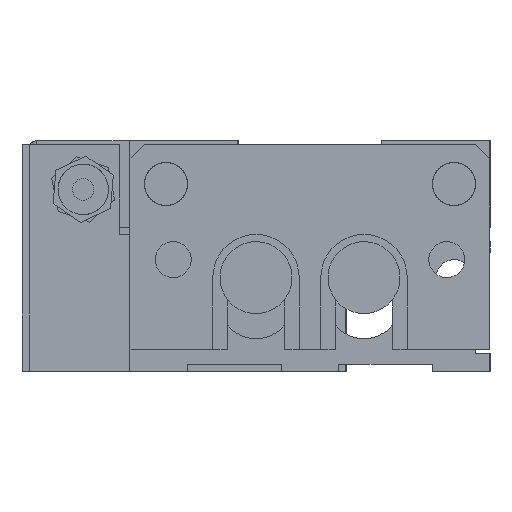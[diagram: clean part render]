
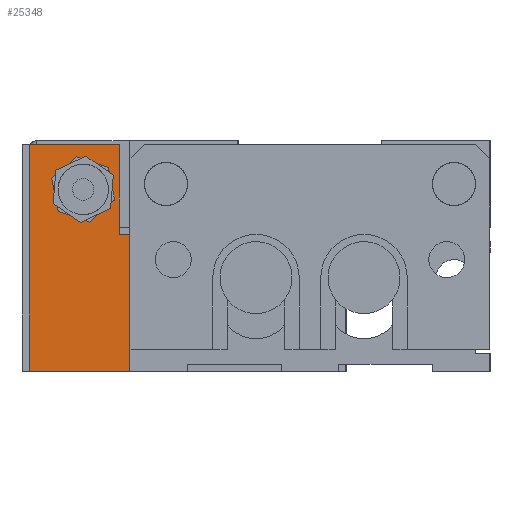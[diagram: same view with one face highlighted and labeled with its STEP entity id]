
A CAD part, left-side view. The second image highlights one B-rep face of the part: STEP entity #25348.
In plain terms, the highlighted planar face has unit normal (-1, 0, 0).
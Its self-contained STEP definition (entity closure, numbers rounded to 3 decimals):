
#2402 = FACE_BOUND ( 'NONE', #25337, .T. ) ;
#2404 = DIRECTION ( 'NONE',  ( 0., 0., 1. ) ) ;
#2405 = VECTOR ( 'NONE', #2404, 1000. ) ;
#2406 = CARTESIAN_POINT ( 'NONE',  ( -4.75, 3.25, 15. ) ) ;
#2413 = LINE ( 'NONE', #2406, #2405 ) ;
#2416 = AXIS2_PLACEMENT_3D ( 'NONE', #2456, #2455, #2454 ) ;
#2419 = FACE_OUTER_BOUND ( 'NONE', #25363, .T. ) ;
#2423 = CARTESIAN_POINT ( 'NONE',  ( -4.75, 3.25, 12.5 ) ) ;
#2435 = AXIS2_PLACEMENT_3D ( 'NONE', #2453, #2498, #2497 ) ;
#2439 = CIRCLE ( 'NONE', #2435, 3.5 ) ;
#2441 = CARTESIAN_POINT ( 'NONE',  ( -4.75, 3.25, 15. ) ) ;
#2453 = CARTESIAN_POINT ( 'NONE',  ( -4.75, 9.5, 7.5 ) ) ;
#2454 = DIRECTION ( 'NONE',  ( 0., 0., -1. ) ) ;
#2455 = DIRECTION ( 'NONE',  ( 1., 0., 0. ) ) ;
#2456 = CARTESIAN_POINT ( 'NONE',  ( -4.75, 15.75, 15. ) ) ;
#2461 = PLANE ( 'NONE',  #2416 ) ;
#2497 = DIRECTION ( 'NONE',  ( 0., 0., 1. ) ) ;
#2498 = DIRECTION ( 'NONE',  ( -1., 0., 0. ) ) ;
#7231 = VERTEX_POINT ( 'NONE', #11880 ) ;
#7271 = EDGE_CURVE ( 'NONE', #7282, #7231, #12059, .T. ) ;
#7282 = VERTEX_POINT ( 'NONE', #12045 ) ;
#7349 = ORIENTED_EDGE ( 'NONE', *, *, #7387, .F. ) ;
#7359 = VERTEX_POINT ( 'NONE', #12254 ) ;
#7374 = ORIENTED_EDGE ( 'NONE', *, *, #7385, .F. ) ;
#7376 = EDGE_CURVE ( 'NONE', #7506, #7359, #12262, .T. ) ;
#7378 = VERTEX_POINT ( 'NONE', #12257 ) ;
#7385 = EDGE_CURVE ( 'NONE', #7378, #7359, #12376, .T. ) ;
#7387 = EDGE_CURVE ( 'NONE', #25364, #7378, #12367, .T. ) ;
#7417 = ORIENTED_EDGE ( 'NONE', *, *, #7432, .T. ) ;
#7426 = ORIENTED_EDGE ( 'NONE', *, *, #7499, .T. ) ;
#7432 = EDGE_CURVE ( 'NONE', #25335, #7494, #12429, .T. ) ;
#7452 = ORIENTED_EDGE ( 'NONE', *, *, #7376, .T. ) ;
#7494 = VERTEX_POINT ( 'NONE', #12517 ) ;
#7499 = EDGE_CURVE ( 'NONE', #7494, #7506, #12566, .T. ) ;
#7506 = VERTEX_POINT ( 'NONE', #12519 ) ;
#11880 = CARTESIAN_POINT ( 'NONE',  ( -4.75, 9.5, 11. ) ) ;
#12045 = CARTESIAN_POINT ( 'NONE',  ( -4.75, 9.5, 4. ) ) ;
#12049 = DIRECTION ( 'NONE',  ( 0., 0., 1. ) ) ;
#12050 = DIRECTION ( 'NONE',  ( -1., 0., 0. ) ) ;
#12051 = CARTESIAN_POINT ( 'NONE',  ( -4.75, 9.5, 7.5 ) ) ;
#12052 = AXIS2_PLACEMENT_3D ( 'NONE', #12051, #12050, #12049 ) ;
#12059 = CIRCLE ( 'NONE', #12052, 3.5 ) ;
#12254 = CARTESIAN_POINT ( 'NONE',  ( -4.75, -15.75, 0. ) ) ;
#12257 = CARTESIAN_POINT ( 'NONE',  ( -4.75, -15.75, 15. ) ) ;
#12258 = DIRECTION ( 'NONE',  ( 0., -1., 0. ) ) ;
#12259 = VECTOR ( 'NONE', #12258, 1000. ) ;
#12261 = CARTESIAN_POINT ( 'NONE',  ( -4.75, 15.75, 0. ) ) ;
#12262 = LINE ( 'NONE', #12261, #12259 ) ;
#12364 = DIRECTION ( 'NONE',  ( 0., -1., 0. ) ) ;
#12365 = VECTOR ( 'NONE', #12364, 1000. ) ;
#12366 = CARTESIAN_POINT ( 'NONE',  ( -4.75, 15.75, 15. ) ) ;
#12367 = LINE ( 'NONE', #12366, #12365 ) ;
#12373 = DIRECTION ( 'NONE',  ( 0., 0., -1. ) ) ;
#12374 = VECTOR ( 'NONE', #12373, 1000. ) ;
#12375 = CARTESIAN_POINT ( 'NONE',  ( -4.75, -15.75, 15. ) ) ;
#12376 = LINE ( 'NONE', #12375, #12374 ) ;
#12426 = DIRECTION ( 'NONE',  ( 0., 1., 0. ) ) ;
#12427 = VECTOR ( 'NONE', #12426, 1000. ) ;
#12428 = CARTESIAN_POINT ( 'NONE',  ( -4.75, 3.25, 12.5 ) ) ;
#12429 = LINE ( 'NONE', #12428, #12427 ) ;
#12517 = CARTESIAN_POINT ( 'NONE',  ( -4.75, 15.75, 12.5 ) ) ;
#12519 = CARTESIAN_POINT ( 'NONE',  ( -4.75, 15.75, 0. ) ) ;
#12563 = DIRECTION ( 'NONE',  ( 0., 0., -1. ) ) ;
#12564 = VECTOR ( 'NONE', #12563, 1000. ) ;
#12565 = CARTESIAN_POINT ( 'NONE',  ( -4.75, 15.75, 15. ) ) ;
#12566 = LINE ( 'NONE', #12565, #12564 ) ;
#25333 = EDGE_CURVE ( 'NONE', #25335, #25364, #2413, .T. ) ;
#25335 = VERTEX_POINT ( 'NONE', #2423 ) ;
#25337 = EDGE_LOOP ( 'NONE', ( #25369, #25376 ) ) ;
#25348 = ADVANCED_FACE ( 'NONE', ( #2402, #2419 ), #2461, .F. ) ;
#25362 = EDGE_CURVE ( 'NONE', #7231, #7282, #2439, .T. ) ;
#25363 = EDGE_LOOP ( 'NONE', ( #25370, #7417, #7426, #7452, #7374, #7349 ) ) ;
#25364 = VERTEX_POINT ( 'NONE', #2441 ) ;
#25369 = ORIENTED_EDGE ( 'NONE', *, *, #25362, .F. ) ;
#25370 = ORIENTED_EDGE ( 'NONE', *, *, #25333, .F. ) ;
#25376 = ORIENTED_EDGE ( 'NONE', *, *, #7271, .F. ) ;
